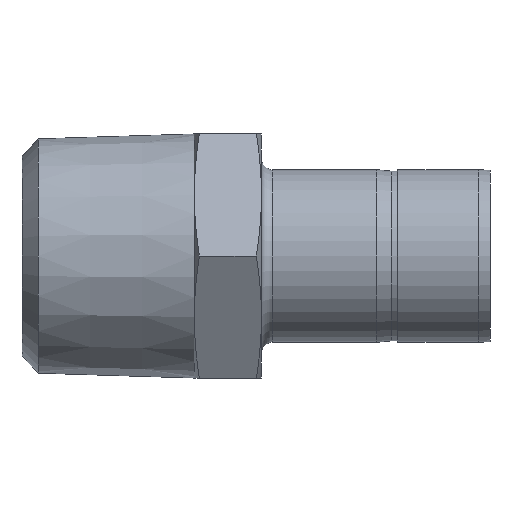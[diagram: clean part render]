
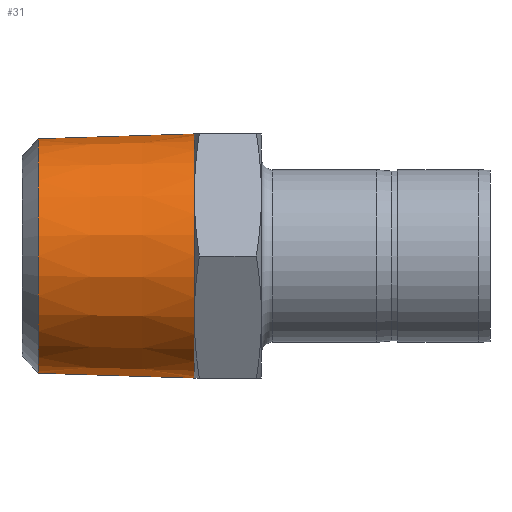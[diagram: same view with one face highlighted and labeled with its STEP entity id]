
A CAD part, front view. The second image highlights one B-rep face of the part: STEP entity #31.
In plain terms, the highlighted conical face has half-angle 1.8 degrees and reference radius 13.131 mm.
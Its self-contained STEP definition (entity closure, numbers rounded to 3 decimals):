
#24 = ORIENTED_EDGE ( 'NONE', *, *, #25, .T. ) ;
#25 = EDGE_CURVE ( 'NONE', #190, #187, #454, .T. ) ;
#27 = ORIENTED_EDGE ( 'NONE', *, *, #28, .T. ) ;
#28 = EDGE_CURVE ( 'NONE', #83, #190, #411, .T. ) ;
#30 = EDGE_LOOP ( 'NONE', ( #27, #24, #198, #129 ) ) ;
#31 = ADVANCED_FACE ( 'NONE', ( #403 ), #401, .T. ) ;
#83 = VERTEX_POINT ( 'NONE', #562 ) ;
#129 = ORIENTED_EDGE ( 'NONE', *, *, #130, .F. ) ;
#130 = EDGE_CURVE ( 'NONE', #83, #197, #682, .T. ) ;
#137 = EDGE_CURVE ( 'NONE', #187, #197, #661, .T. ) ;
#187 = VERTEX_POINT ( 'NONE', #944 ) ;
#190 = VERTEX_POINT ( 'NONE', #938 ) ;
#197 = VERTEX_POINT ( 'NONE', #859 ) ;
#198 = ORIENTED_EDGE ( 'NONE', *, *, #137, .T. ) ;
#400 = AXIS2_PLACEMENT_3D ( 'NONE', #558, #557, #556 ) ;
#401 = CONICAL_SURFACE ( 'NONE', #400, 13.131, 0.031 ) ;
#403 = FACE_OUTER_BOUND ( 'NONE', #30, .T. ) ;
#408 = DIRECTION ( 'NONE',  ( 0., 0., -1. ) ) ;
#409 = DIRECTION ( 'NONE',  ( 1., 0., 0. ) ) ;
#410 = AXIS2_PLACEMENT_3D ( 'NONE', #418, #409, #408 ) ;
#411 = CIRCLE ( 'NONE', #410, 12.917 ) ;
#418 = CARTESIAN_POINT ( 'NONE',  ( -17.201, 0., 0. ) ) ;
#451 = DIRECTION ( 'NONE',  ( 1., 0., -0.031 ) ) ;
#452 = VECTOR ( 'NONE', #451, 1000. ) ;
#453 = CARTESIAN_POINT ( 'NONE',  ( -10.39, 0., -13.131 ) ) ;
#454 = LINE ( 'NONE', #453, #452 ) ;
#556 = DIRECTION ( 'NONE',  ( 0., 0., 1. ) ) ;
#557 = DIRECTION ( 'NONE',  ( 1., 0., 0. ) ) ;
#558 = CARTESIAN_POINT ( 'NONE',  ( -10.39, 0., 0. ) ) ;
#562 = CARTESIAN_POINT ( 'NONE',  ( -17.201, 0., 12.917 ) ) ;
#658 = DIRECTION ( 'NONE',  ( 0., 0., -1. ) ) ;
#659 = DIRECTION ( 'NONE',  ( -1., 0., 0. ) ) ;
#660 = AXIS2_PLACEMENT_3D ( 'NONE', #665, #659, #658 ) ;
#661 = CIRCLE ( 'NONE', #660, 13.458 ) ;
#665 = CARTESIAN_POINT ( 'NONE',  ( 0., 0., 0. ) ) ;
#679 = DIRECTION ( 'NONE',  ( 1., 0., 0.031 ) ) ;
#680 = VECTOR ( 'NONE', #679, 1000. ) ;
#681 = CARTESIAN_POINT ( 'NONE',  ( -10.39, 0., 13.131 ) ) ;
#682 = LINE ( 'NONE', #681, #680 ) ;
#859 = CARTESIAN_POINT ( 'NONE',  ( 0., 0., 13.458 ) ) ;
#938 = CARTESIAN_POINT ( 'NONE',  ( -17.201, 0., -12.917 ) ) ;
#944 = CARTESIAN_POINT ( 'NONE',  ( 0., 0., -13.458 ) ) ;
